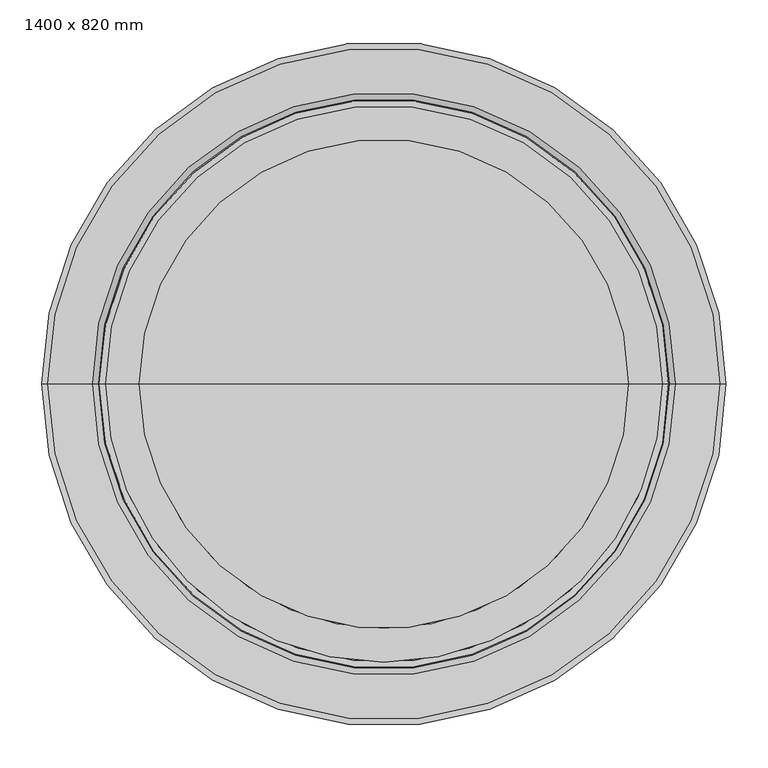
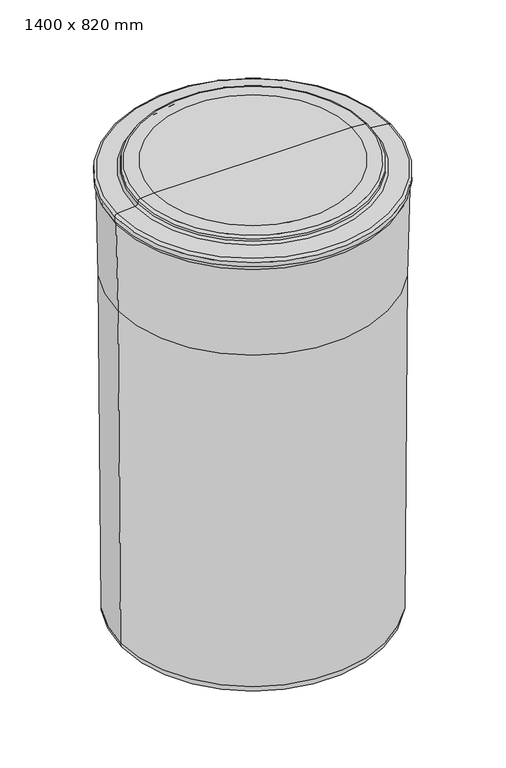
"""IFC4 building model written with IfcOpenShell, lengths in millimetres: proxy geometry, BWT_Bac à sel type 1 : 1400 x 820 mm."""

from ifc_helpers import new_model, si_unit, point, frame, origin, place, context, project, spatial, polyline, circle_curve, ellipse_curve, trimmed, source, transform, mapped, element, save
from ifc_brep_helpers import plane_surface, cylinder_surface, revolved_surface, advanced_brep


def proxy_1400_x_820_mm_5dbdbc59(model_context):
    return source(origin(), model_context, "Body", "AdvancedBrep", [
        advanced_brep(
        [(398.4607428, 0.0, 1068.7394346), (-398.4607428, 0.0, 1068.7394346), (-404.0, 0.0, 1340.0), (404.0, 0.0, 1340.0), (391.4173957, 0.0, 28.3474108), (-391.4173957, 0.0, 28.3474108), (0.0, 0.0, 0.0), (-363.5, 0.0, 0.0), (363.5, 0.0, 0.0), (292.2953745, 0.0, 1400.0), (-292.2953745, 0.0, 1400.0), (0.0, 0.0, 1400.0), (332.6452336, 0.0, 1397.7126502), (-332.6452336, 0.0, 1397.7126502), (340.105008, 0.0, 1391.1127994), (-340.105008, 0.0, 1391.1127994), (341.203396, 0.0, 1384.8835314), (-341.203396, 0.0, 1384.8835314), (348.3846121, 0.0, 1378.3031593), (-348.3846121, 0.0, 1378.3031593), (401.6972459, 0.0, 1373.6389082), (-401.6972459, 0.0, 1373.6389082), (409.0, 0.0, 1365.6693506), (-409.0, 0.0, 1365.6693506), (409.0, 0.0, 1352.0), (-409.0, 0.0, 1352.0), (406.5506787, 0.0, 1352.0), (-406.5506787, 0.0, 1352.0)],
        [
            (0, 1, circle_curve(frame((0.0, 0.0, 1068.7394346), z_axis=(0.0, 0.0, 1.0), x_axis=(-1.0, 0.0, 0.0)), 398.4607428)),
            (1, 2),
            (2, 3, circle_curve(frame((0.0, 0.0, 1340.0), z_axis=(0.0, 0.0, -1.0), x_axis=(-1.0, 0.0, 0.0)), 404.0)),
            (3, 0),
            (1, 0, circle_curve(frame((0.0, 0.0, 1068.7394346), z_axis=(0.0, 0.0, 1.0), x_axis=(-1.0, 0.0, 0.0)), 398.4607428)),
            (3, 2, circle_curve(frame((0.0, 0.0, 1340.0), z_axis=(0.0, 0.0, -1.0), x_axis=(-1.0, 0.0, 0.0)), 404.0)),
            (4, 5, circle_curve(frame((0.0, 0.0, 28.3474108), z_axis=(0.0, 0.0, 1.0), x_axis=(-1.0, 0.0, 0.0)), 391.4173957)),
            (5, 1),
            (0, 4),
            (5, 4, circle_curve(frame((0.0, 0.0, 28.3474108), z_axis=(0.0, 0.0, 1.0), x_axis=(-1.0, 0.0, 0.0)), 391.4173957)),
            (6, 7),
            (7, 8, circle_curve(frame((0.0, 0.0, 0.0), z_axis=(0.0, 0.0, -1.0), x_axis=(-1.0, 0.0, 0.0)), 363.5)),
            (8, 6),
            (8, 7, circle_curve(frame((0.0, 0.0, 0.0), z_axis=(0.0, 0.0, -1.0), x_axis=(-1.0, 0.0, 0.0)), 363.5)),
            (9, 10, circle_curve(frame((0.0, 0.0, 1400.0), z_axis=(0.0, 0.0, 1.0), x_axis=(-1.0, 0.0, 0.0)), 292.2953745)),
            (10, 11),
            (11, 9),
            (10, 9, circle_curve(frame((0.0, 0.0, 1400.0), z_axis=(0.0, 0.0, 1.0), x_axis=(-1.0, 0.0, 0.0)), 292.2953745)),
            (12, 13, circle_curve(frame((0.0, 0.0, 1397.7126502), z_axis=(0.0, 0.0, 1.0), x_axis=(-1.0, 0.0, 0.0)), 332.6452336)),
            (13, 10),
            (9, 12),
            (13, 12, circle_curve(frame((0.0, 0.0, 1397.7126502), z_axis=(0.0, 0.0, 1.0), x_axis=(-1.0, 0.0, 0.0)), 332.6452336)),
            (14, 15, circle_curve(frame((0.0, 0.0, 1391.1127994), z_axis=(0.0, 0.0, 1.0), x_axis=(-1.0, 0.0, 0.0)), 340.105008)),
            (15, 13, circle_curve(frame((-332.226546, 0.0, 1389.723614), z_axis=(0.0, 1.0, 0.0), x_axis=(1.0, 0.0, 0.0)), 8.0)),
            (12, 14, circle_curve(frame((332.226546, 0.0, 1389.723614), z_axis=(0.0, 1.0, 0.0), x_axis=(-1.0, 0.0, 0.0)), 8.0)),
            (15, 14, circle_curve(frame((0.0, 0.0, 1391.1127994), z_axis=(0.0, 0.0, 1.0), x_axis=(-1.0, 0.0, 0.0)), 340.105008)),
            (16, 17, circle_curve(frame((0.0, 0.0, 1384.8835314), z_axis=(0.0, 0.0, 1.0), x_axis=(-1.0, 0.0, 0.0)), 341.203396)),
            (17, 15),
            (14, 16),
            (17, 16, circle_curve(frame((0.0, 0.0, 1384.8835314), z_axis=(0.0, 0.0, 1.0), x_axis=(-1.0, 0.0, 0.0)), 341.203396)),
            (18, 19, circle_curve(frame((0.0, 0.0, 1378.3031593), z_axis=(0.0, 0.0, 1.0), x_axis=(-1.0, 0.0, 0.0)), 348.3846121)),
            (19, 17, circle_curve(frame((-349.081858, 0.0, 1386.2727169), z_axis=(0.0, -1.0, 0.0), x_axis=(1.0, 0.0, 0.0)), 8.0)),
            (16, 18, circle_curve(frame((349.081858, 0.0, 1386.2727169), z_axis=(0.0, -1.0, 0.0), x_axis=(-1.0, 0.0, 0.0)), 8.0)),
            (19, 18, circle_curve(frame((0.0, 0.0, 1378.3031593), z_axis=(0.0, 0.0, 1.0), x_axis=(-1.0, 0.0, 0.0)), 348.3846121)),
            (20, 21, circle_curve(frame((0.0, 0.0, 1373.6389082), z_axis=(0.0, 0.0, 1.0), x_axis=(-1.0, 0.0, 0.0)), 401.6972459)),
            (21, 19),
            (18, 20),
            (21, 20, circle_curve(frame((0.0, 0.0, 1373.6389082), z_axis=(0.0, 0.0, 1.0), x_axis=(-1.0, 0.0, 0.0)), 401.6972459)),
            (22, 23, circle_curve(frame((0.0, 0.0, 1365.6693506), z_axis=(0.0, 0.0, 1.0), x_axis=(-1.0, 0.0, 0.0)), 409.0)),
            (23, 21, circle_curve(frame((-401.0, 0.0, 1365.6693506), z_axis=(0.0, 1.0, 0.0), x_axis=(1.0, 0.0, 0.0)), 8.0)),
            (20, 22, circle_curve(frame((401.0, 0.0, 1365.6693506), z_axis=(0.0, 1.0, 0.0), x_axis=(-1.0, 0.0, 0.0)), 8.0)),
            (23, 22, circle_curve(frame((0.0, 0.0, 1365.6693506), z_axis=(0.0, 0.0, 1.0), x_axis=(-1.0, 0.0, 0.0)), 409.0)),
            (24, 25, circle_curve(frame((0.0, 0.0, 1352.0), z_axis=(0.0, 0.0, 1.0), x_axis=(-1.0, 0.0, 0.0)), 409.0)),
            (25, 23),
            (22, 24),
            (25, 24, circle_curve(frame((0.0, 0.0, 1352.0), z_axis=(0.0, 0.0, 1.0), x_axis=(-1.0, 0.0, 0.0)), 409.0)),
            (26, 27, circle_curve(frame((0.0, 0.0, 1352.0), z_axis=(0.0, 0.0, 1.0), x_axis=(-1.0, 0.0, 0.0)), 406.5506787)),
            (27, 25),
            (24, 26),
            (27, 26, circle_curve(frame((0.0, 0.0, 1352.0), z_axis=(0.0, 0.0, 1.0), x_axis=(-1.0, 0.0, 0.0)), 406.5506787)),
            (2, 27),
            (26, 3),
            (7, 5, circle_curve(frame((-362.424297, 0.0, 28.9800425), z_axis=(0.0, 1.0, 0.0), x_axis=(1.0, 0.0, 0.0)), 29.0)),
            (4, 8, circle_curve(frame((362.424297, 0.0, 28.9800425), z_axis=(0.0, 1.0, 0.0), x_axis=(-1.0, 0.0, 0.0)), 29.0)),
        ],
        [
            revolved_surface(polyline([(-404.0, 0.0, 1340.0), (-398.4607428, 0.0, 1068.7394346)]), (0.0, 0.0, 2824.3150031), (0.0, 0.0, -1.0)),
            revolved_surface(polyline([(-398.4607428, 0.0, 1068.7394346), (-391.4173957, 0.0, 28.3474108)]), (0.0, 0.0, 2824.3150031), (0.0, 0.0, -1.0)),
            plane_surface(frame((0.0, 0.0, 0.0), z_axis=(0.0, 0.0, -1.0), x_axis=(-1.0, 0.0, 0.0))),
            plane_surface(frame((0.0, 0.0, 1400.0), z_axis=(0.0, 0.0, 1.0), x_axis=(-1.0, 0.0, 0.0))),
            revolved_surface(polyline([(-292.2953745, 0.0, 1400.0), (-332.6452336, 0.0, 1397.7126502)]), (0.0, 0.0, 2824.3150031), (0.0, 0.0, -1.0)),
            revolved_surface(trimmed(ellipse_curve(frame((-332.226546, 0.0, 1389.723614), z_axis=(0.0, -1.0, 0.0), x_axis=(1.0, 0.0, 0.0)), 8.0, 8.0), [point((-332.6452336, 0.0, 1397.7126502))], [point((-340.105008, 0.0, 1391.1127994))], True, "CARTESIAN"), (0.0, 0.0, 2824.3150031), (0.0, 0.0, -1.0)),
            revolved_surface(polyline([(-340.105008, 0.0, 1391.1127994), (-341.203396, 0.0, 1384.8835314)]), (0.0, 0.0, 2824.3150031), (0.0, 0.0, -1.0)),
            revolved_surface(trimmed(ellipse_curve(frame((-349.081858, 0.0, 1386.2727169), z_axis=(0.0, 1.0, 0.0), x_axis=(1.0, 0.0, 0.0)), 8.0, 8.0), [point((-341.203396, 0.0, 1384.8835314))], [point((-348.3846121, 0.0, 1378.3031593))], True, "CARTESIAN"), (0.0, 0.0, 2824.3150031), (0.0, 0.0, -1.0)),
            revolved_surface(polyline([(-348.3846121, 0.0, 1378.3031593), (-401.6972459, 0.0, 1373.6389082)]), (0.0, 0.0, 2824.3150031), (0.0, 0.0, -1.0)),
            revolved_surface(trimmed(ellipse_curve(frame((-401.0, 0.0, 1365.6693506), z_axis=(0.0, -1.0, 0.0), x_axis=(1.0, 0.0, 0.0)), 8.0, 8.0), [point((-401.6972459, 0.0, 1373.6389082))], [point((-409.0, 0.0, 1365.6693506))], True, "CARTESIAN"), (0.0, 0.0, 2824.3150031), (0.0, 0.0, -1.0)),
            cylinder_surface(frame((0.0, 0.0, 2824.3150031), z_axis=(0.0, 0.0, -1.0), x_axis=(-1.0, 0.0, 0.0)), 409.0),
            plane_surface(frame((0.0, 0.0, 1352.0), z_axis=(0.0, 0.0, -1.0), x_axis=(-1.0, 0.0, 0.0))),
            revolved_surface(polyline([(-406.5506787, 0.0, 1352.0), (-404.0, 0.0, 1340.0)]), (0.0, 0.0, 2824.3150031), (0.0, 0.0, -1.0)),
            revolved_surface(trimmed(ellipse_curve(frame((-362.424297, 0.0, 28.9800425), z_axis=(0.0, -1.0, 0.0), x_axis=(1.0, 0.0, 0.0)), 29.0, 29.0), [point((-391.4173957, 0.0, 28.3474108))], [point((-363.5, 0.0, 0.0))], True, "CARTESIAN"), (0.0, 0.0, 2824.3150031), (0.0, 0.0, -1.0)),
        ],
        [
            (0, [[1, 2, 3, 4]]),
            (0, [[5, -4, 6, -2]]),
            (1, [[7, 8, -1, 9]]),
            (1, [[10, -9, -5, -8]]),
            (2, [[11, 12, 13]]),
            (2, [[-13, 14, -11]]),
            (3, [[15, 16, 17]]),
            (3, [[18, -17, -16]]),
            (4, [[19, 20, -15, 21]]),
            (4, [[22, -21, -18, -20]]),
            (5, [[23, 24, -19, 25]]),
            (5, [[26, -25, -22, -24]]),
            (6, [[27, 28, -23, 29]]),
            (6, [[30, -29, -26, -28]]),
            (7, [[31, 32, -27, 33]]),
            (7, [[34, -33, -30, -32]]),
            (8, [[35, 36, -31, 37]]),
            (8, [[38, -37, -34, -36]]),
            (9, [[39, 40, -35, 41]]),
            (9, [[42, -41, -38, -40]]),
            (10, [[43, 44, -39, 45]]),
            (10, [[46, -45, -42, -44]]),
            (11, [[47, 48, -43, 49]]),
            (11, [[50, -49, -46, -48]]),
            (12, [[-3, 51, -47, 52]]),
            (12, [[-6, -52, -50, -51]]),
            (13, [[-12, 53, -7, 54]]),
            (13, [[-14, -54, -10, -53]]),
        ],
    ),
    ])


if __name__ == "__main__":
    model = new_model("IFC4")
    model_context = context("Model", 3, world=origin())
    ifc_project = project(units=[si_unit("LENGTHUNIT", "METRE", prefix="MILLI")], contexts=[model_context])
    site = spatial("IfcSite", under=ifc_project)
    building = spatial("IfcBuilding", under=site)
    placement = place(None, origin())
    proxy_1400_x_820_mm_shape = proxy_1400_x_820_mm_5dbdbc59(model_context)
    element("IfcBuildingElementProxy", 1, Name="BWT_Bac à sel type 1 : 1400 x 820 mm", ObjectType="BWT_Bac à sel type 1 : 1400 x 820 mm", at=placement, inside=building, context=model_context, shape_type="MappedRepresentation", body=[
        mapped(proxy_1400_x_820_mm_shape, transform((0.0, 0.0, 0.0), x_axis=(1.0, 0.0, 0.0), y_axis=(0.0, 1.0, 0.0), z_axis=(0.0, 0.0, 1.0))),
    ])
    save(model, "model.ifc")
